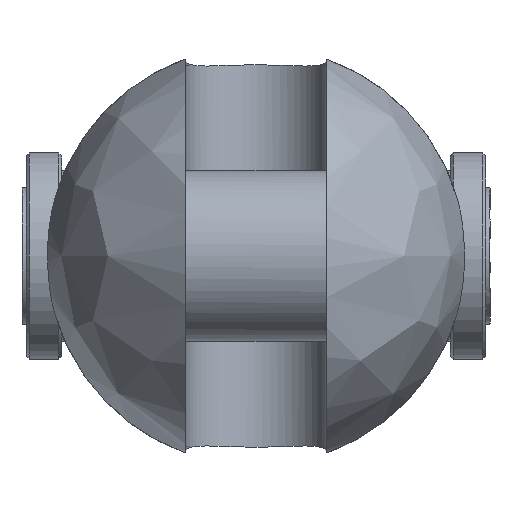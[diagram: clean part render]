
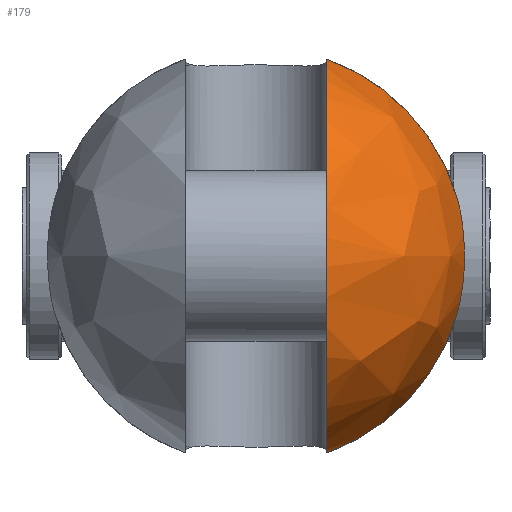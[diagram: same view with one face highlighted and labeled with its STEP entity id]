
A CAD part, left-side view. The second image highlights one B-rep face of the part: STEP entity #179.
In plain terms, the highlighted free-form (B-spline) face has degree [2, 2] with [9, 5] control points.
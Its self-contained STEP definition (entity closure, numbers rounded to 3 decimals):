
#179=ADVANCED_FACE('',(#320),#2417,.T.);
#320=FACE_OUTER_BOUND('',#481,.T.);
#481=EDGE_LOOP('',(#1194,#1195,#1196,#1197));
#1194=ORIENTED_EDGE('',*,*,#1575,.T.);
#1195=ORIENTED_EDGE('',*,*,#1603,.F.);
#1196=ORIENTED_EDGE('',*,*,#1615,.T.);
#1197=ORIENTED_EDGE('',*,*,#1595,.F.);
#1575=EDGE_CURVE('',#2249,#2248,#1983,.T.);
#1595=EDGE_CURVE('',#2249,#2261,#1993,.T.);
#1603=EDGE_CURVE('',#2268,#2248,#1994,.T.);
#1615=EDGE_CURVE('',#2268,#2261,#1789,.T.);
#1789=B_SPLINE_CURVE_WITH_KNOTS('',3,(#6107,#6108,#6109,#6110,#6111,#6112,
#6113,#6114,#6115,#6116,#6117,#6118,#6119,#6120),.UNSPECIFIED.,.F.,.F.,
(4,2,2,2,2,2,4),(0.,1.678,6.25,10.821,
15.392,19.964,21.642),.UNSPECIFIED.);
#1983=(
BOUNDED_CURVE()
B_SPLINE_CURVE(2,(#5883,#5884,#5885,#5886,#5887),.UNSPECIFIED.,.F.,.F.)
B_SPLINE_CURVE_WITH_KNOTS((3,2,3),(-104.962,-52.481,
0.),.UNSPECIFIED.)
CURVE()
GEOMETRIC_REPRESENTATION_ITEM()
RATIONAL_B_SPLINE_CURVE((1.,0.707,1.,0.707,1.))
REPRESENTATION_ITEM('')
);
#1993=(
BOUNDED_CURVE()
B_SPLINE_CURVE(2,(#5977,#5978,#5979),.UNSPECIFIED.,.F.,.F.)
B_SPLINE_CURVE_WITH_KNOTS((3,3),(0.,33.281),.UNSPECIFIED.)
CURVE()
GEOMETRIC_REPRESENTATION_ITEM()
RATIONAL_B_SPLINE_CURVE((1.,0.892,1.))
REPRESENTATION_ITEM('')
);
#1994=(
BOUNDED_CURVE()
B_SPLINE_CURVE(2,(#6034,#6035,#6036),.UNSPECIFIED.,.F.,.F.)
B_SPLINE_CURVE_WITH_KNOTS((3,3),(0.,33.281),.UNSPECIFIED.)
CURVE()
GEOMETRIC_REPRESENTATION_ITEM()
RATIONAL_B_SPLINE_CURVE((1.,0.892,1.))
REPRESENTATION_ITEM('')
);
#2248=VERTEX_POINT('',#5767);
#2249=VERTEX_POINT('',#5768);
#2261=VERTEX_POINT('',#5780);
#2268=VERTEX_POINT('',#5787);
#2417=(
BOUNDED_SURFACE()
B_SPLINE_SURFACE(2,2,((#5481,#5482,#5483,#5484,#5485),(#5486,#5487,#5488,
#5489,#5490),(#5491,#5492,#5493,#5494,#5495),(#5496,#5497,#5498,#5499,#5500),
(#5501,#5502,#5503,#5504,#5505),(#5506,#5507,#5508,#5509,#5510),(#5511,
#5512,#5513,#5514,#5515),(#5516,#5517,#5518,#5519,#5520),(#5521,#5522,#5523,
#5524,#5525)),.UNSPECIFIED.,.T.,.F.,.F.)
B_SPLINE_SURFACE_WITH_KNOTS((3,2,2,2,3),(3,2,3),(0.,55.763,111.527,
167.29,223.053),(0.,55.763,111.527),
 .UNSPECIFIED.)
GEOMETRIC_REPRESENTATION_ITEM()
RATIONAL_B_SPLINE_SURFACE(((1.,0.707,1.,0.707,1.),
(0.707,0.5,0.707,0.5,0.707),(1.,0.707,
1.,0.707,1.),(0.707,0.5,0.707,0.5,0.707),
(1.,0.707,1.,0.707,1.),(0.707,0.5,0.707,
0.5,0.707),(1.,0.707,1.,0.707,1.),(0.707,
0.5,0.707,0.5,0.707),(1.,0.707,1.,0.707,
1.)))
REPRESENTATION_ITEM('')
SURFACE()
);
#5481=CARTESIAN_POINT('',(-51.,0.,0.));
#5482=CARTESIAN_POINT('',(-51.,35.5,0.));
#5483=CARTESIAN_POINT('',(-15.5,35.5,0.));
#5484=CARTESIAN_POINT('',(20.,35.5,0.));
#5485=CARTESIAN_POINT('',(20.,0.,0.));
#5486=CARTESIAN_POINT('',(-51.,0.,0.));
#5487=CARTESIAN_POINT('',(-51.,35.5,35.5));
#5488=CARTESIAN_POINT('',(-15.5,35.5,35.5));
#5489=CARTESIAN_POINT('',(20.,35.5,35.5));
#5490=CARTESIAN_POINT('',(20.,0.,0.));
#5491=CARTESIAN_POINT('',(-51.,0.,0.));
#5492=CARTESIAN_POINT('',(-51.,0.,35.5));
#5493=CARTESIAN_POINT('',(-15.5,0.,35.5));
#5494=CARTESIAN_POINT('',(20.,0.,35.5));
#5495=CARTESIAN_POINT('',(20.,0.,0.));
#5496=CARTESIAN_POINT('',(-51.,0.,0.));
#5497=CARTESIAN_POINT('',(-51.,-35.5,35.5));
#5498=CARTESIAN_POINT('',(-15.5,-35.5,35.5));
#5499=CARTESIAN_POINT('',(20.,-35.5,35.5));
#5500=CARTESIAN_POINT('',(20.,0.,0.));
#5501=CARTESIAN_POINT('',(-51.,0.,0.));
#5502=CARTESIAN_POINT('',(-51.,-35.5,0.));
#5503=CARTESIAN_POINT('',(-15.5,-35.5,0.));
#5504=CARTESIAN_POINT('',(20.,-35.5,0.));
#5505=CARTESIAN_POINT('',(20.,0.,0.));
#5506=CARTESIAN_POINT('',(-51.,0.,0.));
#5507=CARTESIAN_POINT('',(-51.,-35.5,-35.5));
#5508=CARTESIAN_POINT('',(-15.5,-35.5,-35.5));
#5509=CARTESIAN_POINT('',(20.,-35.5,-35.5));
#5510=CARTESIAN_POINT('',(20.,0.,0.));
#5511=CARTESIAN_POINT('',(-51.,0.,0.));
#5512=CARTESIAN_POINT('',(-51.,0.,-35.5));
#5513=CARTESIAN_POINT('',(-15.5,0.,-35.5));
#5514=CARTESIAN_POINT('',(20.,0.,-35.5));
#5515=CARTESIAN_POINT('',(20.,0.,0.));
#5516=CARTESIAN_POINT('',(-51.,0.,0.));
#5517=CARTESIAN_POINT('',(-51.,35.5,-35.5));
#5518=CARTESIAN_POINT('',(-15.5,35.5,-35.5));
#5519=CARTESIAN_POINT('',(20.,35.5,-35.5));
#5520=CARTESIAN_POINT('',(20.,0.,0.));
#5521=CARTESIAN_POINT('',(-51.,0.,0.));
#5522=CARTESIAN_POINT('',(-51.,35.5,0.));
#5523=CARTESIAN_POINT('',(-15.5,35.5,0.));
#5524=CARTESIAN_POINT('',(20.,35.5,0.));
#5525=CARTESIAN_POINT('',(20.,0.,0.));
#5767=CARTESIAN_POINT('',(-15.5,-12.,-33.41));
#5768=CARTESIAN_POINT('',(-15.5,-12.,33.41));
#5780=CARTESIAN_POINT('',(-15.5,-34.033,10.1));
#5787=CARTESIAN_POINT('',(-15.5,-34.033,-10.1));
#5883=CARTESIAN_POINT('',(-15.5,-12.,33.41));
#5884=CARTESIAN_POINT('',(-48.91,-12.,33.41));
#5885=CARTESIAN_POINT('',(-48.91,-12.,0.));
#5886=CARTESIAN_POINT('',(-48.91,-12.,-33.41));
#5887=CARTESIAN_POINT('',(-15.5,-12.,-33.41));
#5977=CARTESIAN_POINT('',(-15.5,-12.,33.41));
#5978=CARTESIAN_POINT('',(-15.5,-28.919,27.334));
#5979=CARTESIAN_POINT('',(-15.5,-34.033,10.1));
#6034=CARTESIAN_POINT('',(-15.5,-34.033,-10.1));
#6035=CARTESIAN_POINT('',(-15.5,-28.919,-27.334));
#6036=CARTESIAN_POINT('',(-15.5,-12.,-33.41));
#6107=CARTESIAN_POINT('',(-15.5,-34.033,-10.1));
#6108=CARTESIAN_POINT('',(-15.799,-34.169,-9.64));
#6109=CARTESIAN_POINT('',(-16.079,-34.296,-9.166));
#6110=CARTESIAN_POINT('',(-17.043,-34.73,-7.351));
#6111=CARTESIAN_POINT('',(-17.591,-34.973,-5.924));
#6112=CARTESIAN_POINT('',(-18.319,-35.294,-2.989));
#6113=CARTESIAN_POINT('',(-18.5,-35.373,-1.481));
#6114=CARTESIAN_POINT('',(-18.5,-35.373,1.481));
#6115=CARTESIAN_POINT('',(-18.319,-35.294,2.989));
#6116=CARTESIAN_POINT('',(-17.591,-34.973,5.924));
#6117=CARTESIAN_POINT('',(-17.043,-34.73,7.351));
#6118=CARTESIAN_POINT('',(-16.079,-34.296,9.166));
#6119=CARTESIAN_POINT('',(-15.799,-34.169,9.64));
#6120=CARTESIAN_POINT('',(-15.5,-34.033,10.1));
